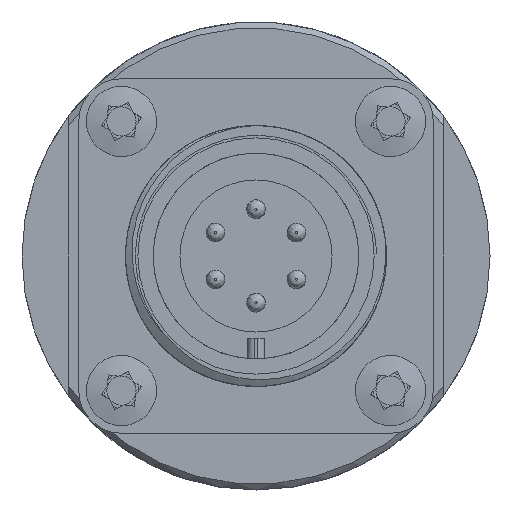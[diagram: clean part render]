
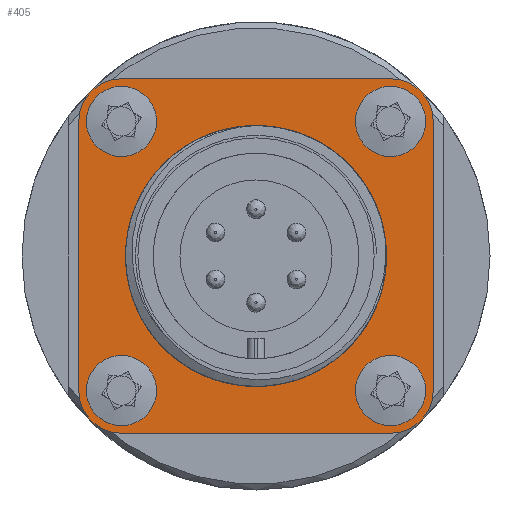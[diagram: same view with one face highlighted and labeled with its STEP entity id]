
A CAD part, front view. The second image highlights one B-rep face of the part: STEP entity #405.
In plain terms, the highlighted planar face has unit normal (0, -1, 0) as drawn and (-1, 0, 0) by its records, which use the part's own axes.
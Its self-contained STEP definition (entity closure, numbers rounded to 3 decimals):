
#405 = ADVANCED_FACE( '', ( #857, #858, #859, #860, #861, #862 ), #863, .F. );
#857 = FACE_BOUND( '', #2397, .T. );
#858 = FACE_BOUND( '', #2398, .T. );
#859 = FACE_OUTER_BOUND( '', #2399, .T. );
#860 = FACE_BOUND( '', #2400, .T. );
#861 = FACE_BOUND( '', #2401, .T. );
#862 = FACE_BOUND( '', #2402, .T. );
#863 = PLANE( '', #2403 );
#2397 = EDGE_LOOP( '', ( #6782 ) );
#2398 = EDGE_LOOP( '', ( #6783 ) );
#2399 = EDGE_LOOP( '', ( #6784, #6785, #6786, #6787, #6788, #6789, #6790, #6791 ) );
#2400 = EDGE_LOOP( '', ( #6792 ) );
#2401 = EDGE_LOOP( '', ( #6793 ) );
#2402 = EDGE_LOOP( '', ( #6794 ) );
#2403 = AXIS2_PLACEMENT_3D( '', #6795, #6796, #6797 );
#6782 = ORIENTED_EDGE( '', *, *, #8124, .T. );
#6783 = ORIENTED_EDGE( '', *, *, #8121, .T. );
#6784 = ORIENTED_EDGE( '', *, *, #8125, .F. );
#6785 = ORIENTED_EDGE( '', *, *, #8126, .F. );
#6786 = ORIENTED_EDGE( '', *, *, #8127, .F. );
#6787 = ORIENTED_EDGE( '', *, *, #8128, .F. );
#6788 = ORIENTED_EDGE( '', *, *, #8129, .F. );
#6789 = ORIENTED_EDGE( '', *, *, #8130, .F. );
#6790 = ORIENTED_EDGE( '', *, *, #8131, .F. );
#6791 = ORIENTED_EDGE( '', *, *, #8132, .F. );
#6792 = ORIENTED_EDGE( '', *, *, #8133, .T. );
#6793 = ORIENTED_EDGE( '', *, *, #8134, .T. );
#6794 = ORIENTED_EDGE( '', *, *, #8135, .T. );
#6795 = CARTESIAN_POINT( '', ( -2.4, -11.5, 11.5 ) );
#6796 = DIRECTION( '', ( 1., 0., 0. ) );
#6797 = DIRECTION( '', ( 0., 1., 0. ) );
#8121 = EDGE_CURVE( '', #8663, #8663, #8664, .T. );
#8124 = EDGE_CURVE( '', #8668, #8668, #8669, .T. );
#8125 = EDGE_CURVE( '', #8670, #8671, #8672, .T. );
#8126 = EDGE_CURVE( '', #8673, #8670, #8674, .T. );
#8127 = EDGE_CURVE( '', #8675, #8673, #8676, .T. );
#8128 = EDGE_CURVE( '', #8677, #8675, #8678, .T. );
#8129 = EDGE_CURVE( '', #8679, #8677, #8680, .T. );
#8130 = EDGE_CURVE( '', #8681, #8679, #8682, .T. );
#8131 = EDGE_CURVE( '', #8683, #8681, #8684, .T. );
#8132 = EDGE_CURVE( '', #8671, #8683, #8685, .T. );
#8133 = EDGE_CURVE( '', #8686, #8686, #8687, .T. );
#8134 = EDGE_CURVE( '', #8688, #8688, #8689, .T. );
#8135 = EDGE_CURVE( '', #8690, #8690, #8691, .T. );
#8663 = VERTEX_POINT( '', #10342 );
#8664 = CIRCLE( '', #10343, 1.5 );
#8668 = VERTEX_POINT( '', #10347 );
#8669 = CIRCLE( '', #10348, 11.15 );
#8670 = VERTEX_POINT( '', #10349 );
#8671 = VERTEX_POINT( '', #10350 );
#8672 = CIRCLE( '', #10351, 3.65 );
#8673 = VERTEX_POINT( '', #10352 );
#8674 = LINE( '', #10353, #10354 );
#8675 = VERTEX_POINT( '', #10355 );
#8676 = CIRCLE( '', #10356, 3.65 );
#8677 = VERTEX_POINT( '', #10357 );
#8678 = LINE( '', #10358, #10359 );
#8679 = VERTEX_POINT( '', #10360 );
#8680 = CIRCLE( '', #10361, 3.65 );
#8681 = VERTEX_POINT( '', #10362 );
#8682 = LINE( '', #10363, #10364 );
#8683 = VERTEX_POINT( '', #10365 );
#8684 = CIRCLE( '', #10366, 3.65 );
#8685 = LINE( '', #10367, #10368 );
#8686 = VERTEX_POINT( '', #10369 );
#8687 = CIRCLE( '', #10370, 1.5 );
#8688 = VERTEX_POINT( '', #10371 );
#8689 = CIRCLE( '', #10372, 1.5 );
#8690 = VERTEX_POINT( '', #10373 );
#8691 = CIRCLE( '', #10374, 1.5 );
#10342 = CARTESIAN_POINT( '', ( -2.4, -10., 11.5 ) );
#10343 = AXIS2_PLACEMENT_3D( '', #13249, #13250, #13251 );
#10347 = CARTESIAN_POINT( '', ( -2.4, 11.15, 0. ) );
#10348 = AXIS2_PLACEMENT_3D( '', #13255, #13256, #13257 );
#10349 = CARTESIAN_POINT( '', ( -2.4, -11.5, 15.15 ) );
#10350 = CARTESIAN_POINT( '', ( -2.4, -15.15, 11.5 ) );
#10351 = AXIS2_PLACEMENT_3D( '', #13258, #13259, #13260 );
#10352 = CARTESIAN_POINT( '', ( -2.4, 11.5, 15.15 ) );
#10353 = CARTESIAN_POINT( '', ( -2.4, -11.5, 15.15 ) );
#10354 = VECTOR( '', #13261, 1000. );
#10355 = CARTESIAN_POINT( '', ( -2.4, 15.15, 11.5 ) );
#10356 = AXIS2_PLACEMENT_3D( '', #13262, #13263, #13264 );
#10357 = CARTESIAN_POINT( '', ( -2.4, 15.15, -11.5 ) );
#10358 = CARTESIAN_POINT( '', ( -2.4, 15.15, 11.5 ) );
#10359 = VECTOR( '', #13265, 1000. );
#10360 = CARTESIAN_POINT( '', ( -2.4, 11.5, -15.15 ) );
#10361 = AXIS2_PLACEMENT_3D( '', #13266, #13267, #13268 );
#10362 = CARTESIAN_POINT( '', ( -2.4, -11.5, -15.15 ) );
#10363 = CARTESIAN_POINT( '', ( -2.4, -11.5, -15.15 ) );
#10364 = VECTOR( '', #13269, 1000. );
#10365 = CARTESIAN_POINT( '', ( -2.4, -15.15, -11.5 ) );
#10366 = AXIS2_PLACEMENT_3D( '', #13270, #13271, #13272 );
#10367 = CARTESIAN_POINT( '', ( -2.4, -15.15, 11.5 ) );
#10368 = VECTOR( '', #13273, 1000. );
#10369 = CARTESIAN_POINT( '', ( -2.4, 13., 11.5 ) );
#10370 = AXIS2_PLACEMENT_3D( '', #13274, #13275, #13276 );
#10371 = CARTESIAN_POINT( '', ( -2.4, 13., -11.5 ) );
#10372 = AXIS2_PLACEMENT_3D( '', #13277, #13278, #13279 );
#10373 = CARTESIAN_POINT( '', ( -2.4, -10., -11.5 ) );
#10374 = AXIS2_PLACEMENT_3D( '', #13280, #13281, #13282 );
#13249 = CARTESIAN_POINT( '', ( -2.4, -11.5, 11.5 ) );
#13250 = DIRECTION( '', ( 1., 0., 0. ) );
#13251 = DIRECTION( '', ( 0., 1., 0. ) );
#13255 = CARTESIAN_POINT( '', ( -2.4, 0., 0. ) );
#13256 = DIRECTION( '', ( 1., 0., 0. ) );
#13257 = DIRECTION( '', ( 0., 1., 0. ) );
#13258 = CARTESIAN_POINT( '', ( -2.4, -11.5, 11.5 ) );
#13259 = DIRECTION( '', ( 1., 0., 0. ) );
#13260 = DIRECTION( '', ( 0., 1., 0. ) );
#13261 = DIRECTION( '', ( 0., -1., 0. ) );
#13262 = CARTESIAN_POINT( '', ( -2.4, 11.5, 11.5 ) );
#13263 = DIRECTION( '', ( 1., 0., 0. ) );
#13264 = DIRECTION( '', ( 0., 1., 0. ) );
#13265 = DIRECTION( '', ( 0., 0., 1. ) );
#13266 = CARTESIAN_POINT( '', ( -2.4, 11.5, -11.5 ) );
#13267 = DIRECTION( '', ( 1., 0., 0. ) );
#13268 = DIRECTION( '', ( 0., -1., 0. ) );
#13269 = DIRECTION( '', ( 0., 1., 0. ) );
#13270 = CARTESIAN_POINT( '', ( -2.4, -11.5, -11.5 ) );
#13271 = DIRECTION( '', ( 1., 0., 0. ) );
#13272 = DIRECTION( '', ( 0., 1., 0. ) );
#13273 = DIRECTION( '', ( 0., 0., -1. ) );
#13274 = CARTESIAN_POINT( '', ( -2.4, 11.5, 11.5 ) );
#13275 = DIRECTION( '', ( 1., 0., 0. ) );
#13276 = DIRECTION( '', ( 0., 1., 0. ) );
#13277 = CARTESIAN_POINT( '', ( -2.4, 11.5, -11.5 ) );
#13278 = DIRECTION( '', ( 1., 0., 0. ) );
#13279 = DIRECTION( '', ( 0., 1., 0. ) );
#13280 = CARTESIAN_POINT( '', ( -2.4, -11.5, -11.5 ) );
#13281 = DIRECTION( '', ( 1., 0., 0. ) );
#13282 = DIRECTION( '', ( 0., 1., 0. ) );
